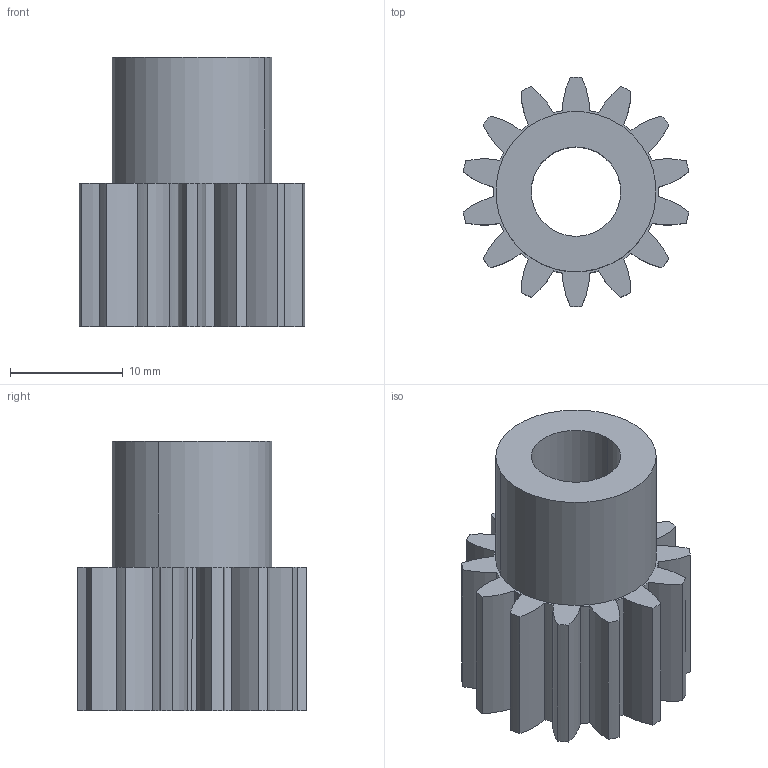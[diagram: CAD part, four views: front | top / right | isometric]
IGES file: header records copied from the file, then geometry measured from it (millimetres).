
Global section: file name: C:\Documents and Settings\Administrator\Desktop\Transfer Temp\gss-2014.igs; native system: AutoDesk Inventor R2.0 ; preprocessor: AutoDesk Inventor Iges Exporter R2.0; author: No Author specified; organization: No Organization specified; date: 20011229.170102; units: inch
Bounding box: 20.01 x 20.32 x 23.88 mm (x, y, z)
Surface area: 2901.2 mm2 (no closed solid volume)
Topology: 0 solids, 0 shells, 65 faces, 372 edges, 372 vertices
Faces by surface type: revolution 60, bspline 5
